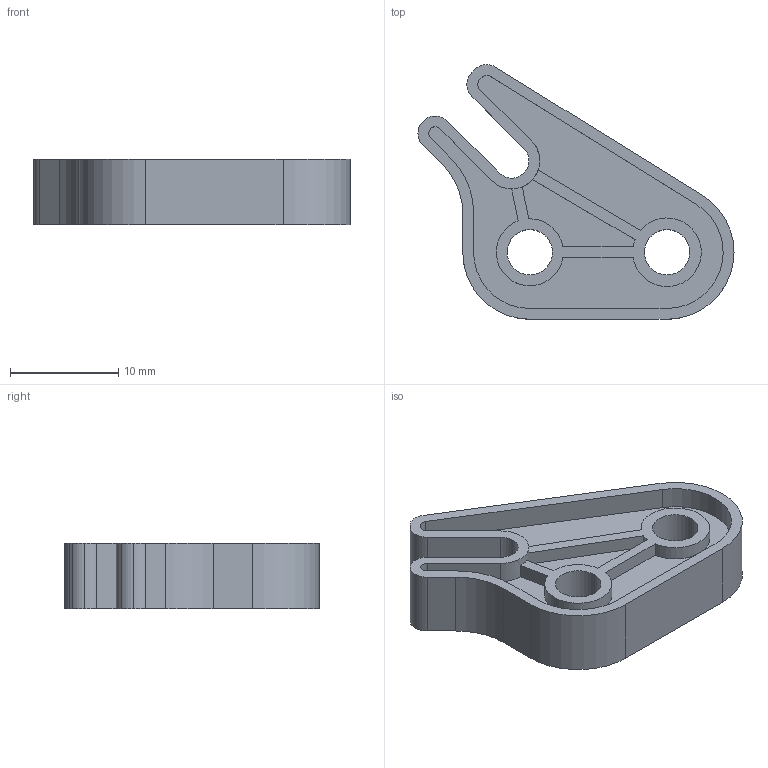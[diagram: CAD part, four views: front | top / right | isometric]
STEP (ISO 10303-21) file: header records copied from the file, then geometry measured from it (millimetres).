
FILE_DESCRIPTION (( 'STEP AP214' ), '1' );
FILE_NAME ('228-2500-157.STEP', '2021-02-18T19:55:21', ( '' ), ( '' ), 'SwSTEP 2.0', 'SolidWorks 2019', '' );
FILE_SCHEMA (( 'AUTOMOTIVE_DESIGN' ));
Length unit declared in the file: inch
Products named in the file (1): 228-2500-157
Bounding box: 29.25 x 23.57 x 6.1 mm (x, y, z)
Volume: 1299.3 mm3; surface area: 2072.9 mm2
Topology: 1 solids, 1 shells, 86 faces, 246 edges, 164 vertices
Faces by surface type: cylinder 45, plane 41
Entity records: 2896 total; most frequent: DIRECTION 518, CARTESIAN_POINT 497, ORIENTED_EDGE 492, EDGE_CURVE 246, AXIS2_PLACEMENT_3D 185, VERTEX_POINT 164, VECTOR 148, LINE 148
